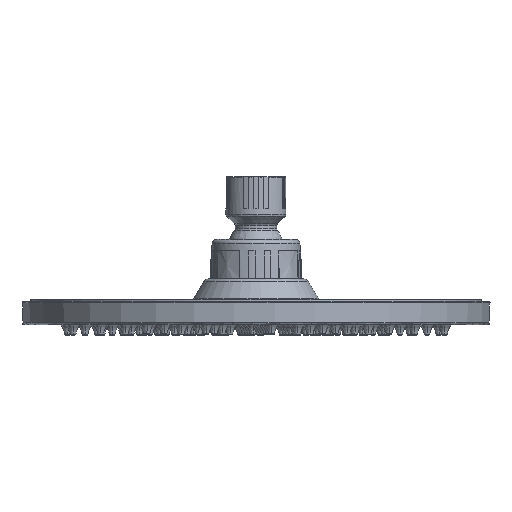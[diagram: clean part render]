
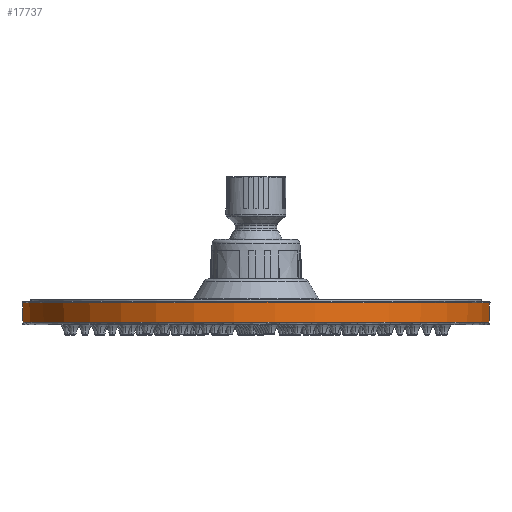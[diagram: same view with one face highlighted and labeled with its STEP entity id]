
A CAD part, top view. The second image highlights one B-rep face of the part: STEP entity #17737.
In plain terms, the highlighted conical face has half-angle 1.5 degrees and reference radius 101.587 mm.
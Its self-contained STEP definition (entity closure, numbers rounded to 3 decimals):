
#363 = AXIS2_PLACEMENT_3D ( 'NONE', #31211, #23630, #16171 ) ;
#578 = VERTEX_POINT ( 'NONE', #2760 ) ;
#628 = EDGE_CURVE ( 'NONE', #31918, #578, #8040, .T. ) ;
#2348 = DIRECTION ( 'NONE',  ( -1., 0., -0.005 ) ) ;
#2604 = AXIS2_PLACEMENT_3D ( 'NONE', #12314, #22446, #12475 ) ;
#2760 = CARTESIAN_POINT ( 'NONE',  ( -101.364, 9.026, 0. ) ) ;
#3504 = ORIENTED_EDGE ( 'NONE', *, *, #31152, .T. ) ;
#6092 = VERTEX_POINT ( 'NONE', #22907 ) ;
#6109 = DIRECTION ( 'NONE',  ( 0.026, -1., 0. ) ) ;
#6263 = LINE ( 'NONE', #10750, #31566 ) ;
#6317 = CIRCLE ( 'NONE', #2604, 101.587 ) ;
#8040 = LINE ( 'NONE', #27736, #13728 ) ;
#10750 = CARTESIAN_POINT ( 'NONE',  ( 101.475, 4.77, 0. ) ) ;
#11098 = AXIS2_PLACEMENT_3D ( 'NONE', #17421, #14957, #2348 ) ;
#12226 = EDGE_CURVE ( 'NONE', #20902, #6092, #6263, .T. ) ;
#12314 = CARTESIAN_POINT ( 'NONE',  ( 0., 0.513, 0. ) ) ;
#12475 = DIRECTION ( 'NONE',  ( -1., 0., 0. ) ) ;
#13728 = VECTOR ( 'NONE', #18173, 1000. ) ;
#14665 = CONICAL_SURFACE ( 'NONE', #363, 101.587, 0.026 ) ;
#14862 = ORIENTED_EDGE ( 'NONE', *, *, #12226, .F. ) ;
#14957 = DIRECTION ( 'NONE',  ( 0., 1., 0. ) ) ;
#15389 = ORIENTED_EDGE ( 'NONE', *, *, #16280, .F. ) ;
#16013 = FACE_OUTER_BOUND ( 'NONE', #30504, .T. ) ;
#16171 = DIRECTION ( 'NONE',  ( 0., 0., -1. ) ) ;
#16280 = EDGE_CURVE ( 'NONE', #578, #20902, #20625, .T. ) ;
#17421 = CARTESIAN_POINT ( 'NONE',  ( 0., 9.026, 0. ) ) ;
#17737 = ADVANCED_FACE ( 'NONE', ( #16013 ), #14665, .T. ) ;
#18173 = DIRECTION ( 'NONE',  ( 0.026, 1., 0. ) ) ;
#20625 = CIRCLE ( 'NONE', #11098, 101.364 ) ;
#20902 = VERTEX_POINT ( 'NONE', #23772 ) ;
#21727 = CARTESIAN_POINT ( 'NONE',  ( -101.587, 0.513, 0. ) ) ;
#22446 = DIRECTION ( 'NONE',  ( 0., 1., 0. ) ) ;
#22907 = CARTESIAN_POINT ( 'NONE',  ( 101.587, 0.513, 0. ) ) ;
#23630 = DIRECTION ( 'NONE',  ( 0., -1., 0. ) ) ;
#23772 = CARTESIAN_POINT ( 'NONE',  ( 101.364, 9.026, 0. ) ) ;
#27736 = CARTESIAN_POINT ( 'NONE',  ( -101.475, 4.77, 0. ) ) ;
#30504 = EDGE_LOOP ( 'NONE', ( #30892, #3504, #14862, #15389 ) ) ;
#30892 = ORIENTED_EDGE ( 'NONE', *, *, #628, .F. ) ;
#31152 = EDGE_CURVE ( 'NONE', #31918, #6092, #6317, .T. ) ;
#31211 = CARTESIAN_POINT ( 'NONE',  ( 0., 0.513, 0. ) ) ;
#31566 = VECTOR ( 'NONE', #6109, 1000. ) ;
#31918 = VERTEX_POINT ( 'NONE', #21727 ) ;
